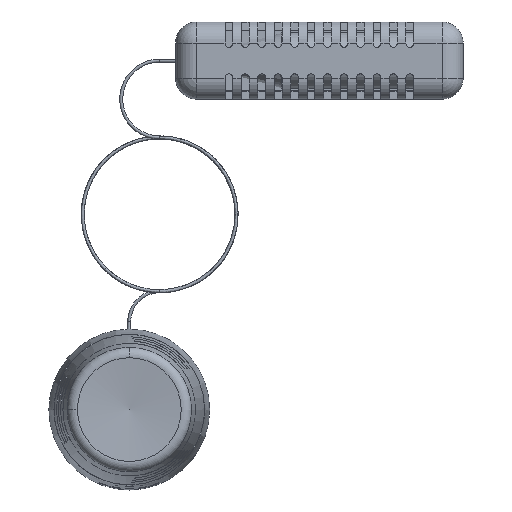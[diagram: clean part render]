
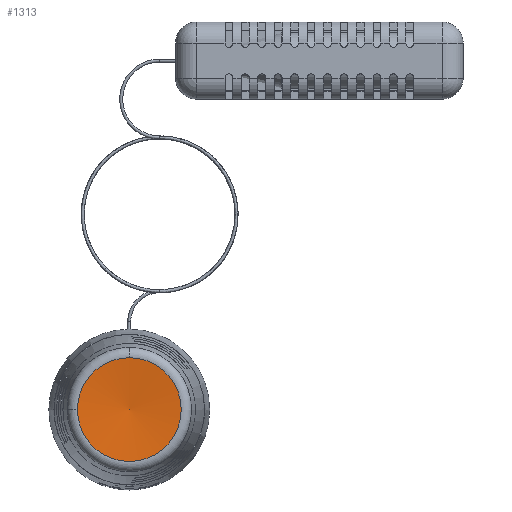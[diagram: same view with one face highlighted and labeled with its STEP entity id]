
A CAD part, front view. The second image highlights one B-rep face of the part: STEP entity #1313.
In plain terms, the highlighted spherical face has radius 101 mm.
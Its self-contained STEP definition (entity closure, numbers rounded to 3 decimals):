
#1313=ADVANCED_FACE('',(#19582),#19584,.F.);
#19582=FACE_BOUND('',#19583,.T.);
#19583=EDGE_LOOP('',(#31018,#31019));
#19584=SPHERICAL_SURFACE('',#19585,101.);
#19585=AXIS2_PLACEMENT_3D('',#19586,#19587,#19588);
#19586=CARTESIAN_POINT('',(0.,-108.8,0.));
#19587=DIRECTION('',(0.,1.,0.));
#19588=DIRECTION('',(0.,0.,1.));
#31018=ORIENTED_EDGE('',*,*,#37073,.T.);
#31019=ORIENTED_EDGE('',*,*,#37076,.T.);
#37073=EDGE_CURVE('',#44665,#44666,#44667,.F.);
#37076=EDGE_CURVE('',#44666,#44665,#44670,.F.);
#44665=VERTEX_POINT('',#67266);
#44666=VERTEX_POINT('',#67267);
#44667=CIRCLE('',#67268,16.878);
#44670=CIRCLE('',#67280,16.878);
#67266=CARTESIAN_POINT('',(0.,-9.22,16.878));
#67267=CARTESIAN_POINT('',(-16.878,-9.22,0.));
#67268=AXIS2_PLACEMENT_3D('',#67269,#67270,#67271);
#67269=CARTESIAN_POINT('',(0.,-9.22,0.));
#67270=DIRECTION('',(0.,1.,0.));
#67271=DIRECTION('',(-1.,0.,0.));
#67280=AXIS2_PLACEMENT_3D('',#67281,#67282,#67283);
#67281=CARTESIAN_POINT('',(0.,-9.22,0.));
#67282=DIRECTION('',(0.,1.,0.));
#67283=DIRECTION('',(0.,0.,1.));
